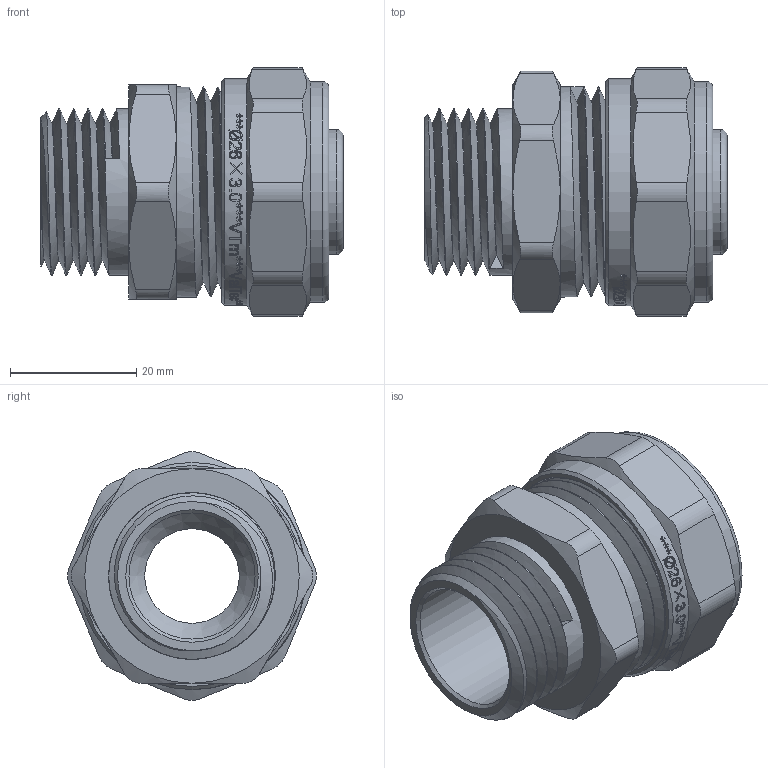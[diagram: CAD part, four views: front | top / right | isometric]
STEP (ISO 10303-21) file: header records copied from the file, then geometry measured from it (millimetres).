
FILE_DESCRIPTION(/* description */ (''),/* implementation_level */ '2;1');
FILE_NAME(/* name */ 'E:\Артём\00000\Работа удаленка\Обжимные фитинги\VTm.301.N.002605.stp',/* time_stamp */ '2020-05-21T14:28:09+03:00',/* author */ ('BeN_GaN'),/* organization */ (''),/* preprocessor_version */ 'ST-DEVELOPER v18',/* originating_system */ 'Autodesk Inventor 2020',/* authorisation */ '');
FILE_SCHEMA (('AUTOMOTIVE_DESIGN { 1 0 10303 214 3 1 1 }'));
Length unit declared in the file: millimetre
Products named in the file (1): VTm.301.N.002605
Bounding box: 48 x 39.39 x 39.39 mm (x, y, z)
Volume: 21460.4 mm3; surface area: 16849.7 mm2
Topology: 1 solids, 1 shells, 687 faces, 1943 edges, 1314 vertices
Faces by surface type: bspline 372, plane 170, cylinder 92, cone 29, torus 24
Full cylindrical faces by diameter (mm): 15 x1, 17.4 x2, 19.8 x5, 20 x1, 21.8 x4, 24.516 x4, 25.435 x5, 26.2 x1, 26.4 x4, 26.7 x1, 28.5 x1, 28.7 x2, 30.5 x1, 33.3 x2, 35 x1, 36 x1
Entity records: 30183 total; most frequent: CARTESIAN_POINT 14837, ORIENTED_EDGE 3886, DIRECTION 2002, EDGE_CURVE 1943, VERTEX_POINT 1314, B_SPLINE_CURVE_WITH_KNOTS 834, LINE 768, VECTOR 768
